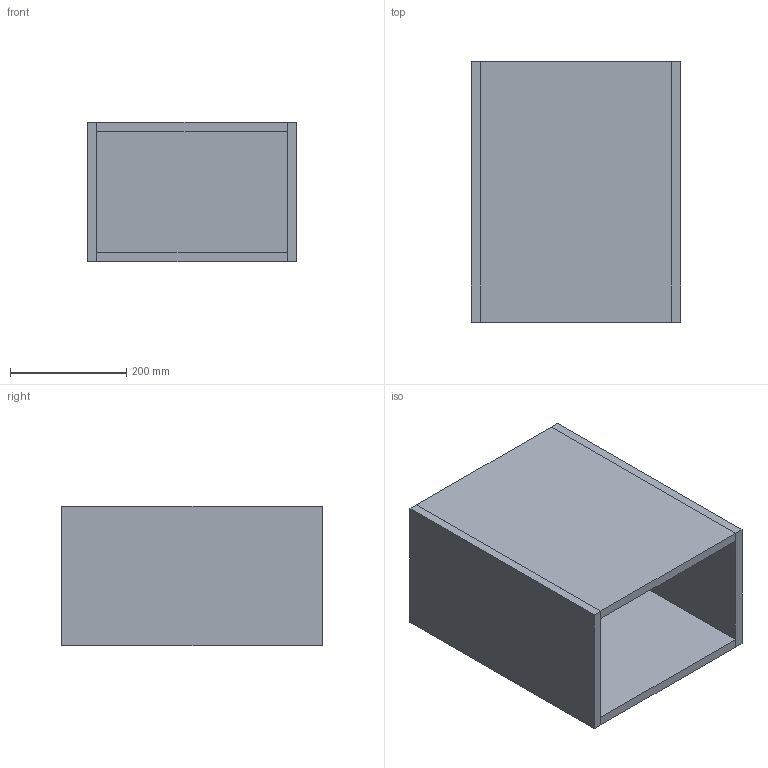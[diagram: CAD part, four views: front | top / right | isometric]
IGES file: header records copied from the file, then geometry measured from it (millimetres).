
Start section: Data from Parasolid IGES Translator 19.0.9, Copyright(c) 2006 Siemens PL M Software. All Rights Reserved.
Global section: file name: noorth-SI-H 24 D 47 W 36_8297.igs; native system: By Siemens PLM Incorporated; preprocessor: XPlus GENERIC/IGES 19.0.9; author: Noname; organization: Noname; date: 20200530.114801; units: metre
Bounding box: 360.01 x 448.06 x 240 mm (x, y, z)
Volume: 8337797.4 mm3; surface area: 1251043 mm2
Topology: 5 solids, 5 shells, 30 faces, 60 edges, 40 vertices
Faces by surface type: plane 30
